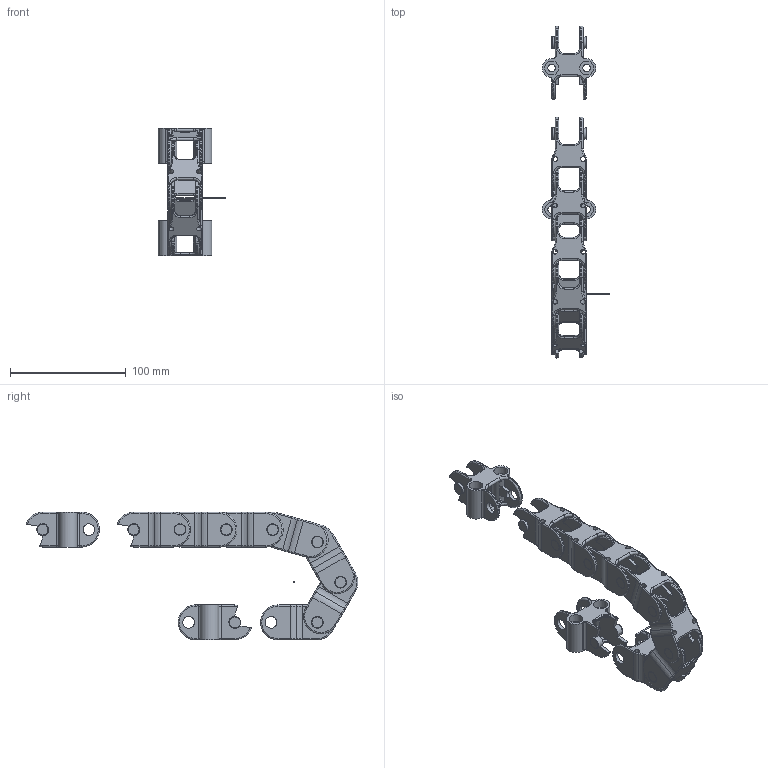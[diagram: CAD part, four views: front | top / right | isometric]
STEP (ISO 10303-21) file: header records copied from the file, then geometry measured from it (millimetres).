
FILE_DESCRIPTION((''),'2;1');
FILE_NAME('C:\Uebbing\PARAMETERKETTEN\KOLIBRI\Kol_30_030_3\KOLIBRI 30_030_3_R40.stp','2012-03-02T13:16:41',('Uebbing'),(''),'Autodesk Inventor 10','Autodesk Inventor 10','');
FILE_SCHEMA(('AUTOMOTIVE_DESIGN { 1 0 10303 214 1 1 1 1 }'));
Length unit declared in the file: millimetre
Products named in the file (4): KOLIBRI 30_030_3_PARAMETRISCH; Kol_30_030_3; Achse; Kol_30_030_3 K Anschluss
Assembly tree (10 placements, depth 2):
  KOLIBRI 30_030_3_PARAMETRISCH
    Kol_30_030_3  x7
    Achse
    Kol_30_030_3 K Anschluss  x2
Bounding box: 58.1 x 286.32 x 110 mm (x, y, z)
Volume: 122557.8 mm3; surface area: 89780.6 mm2
Topology: 10 solids, 10 shells, 1096 faces, 3003 edges, 1889 vertices
Faces by surface type: bspline 375, cylinder 286, torus 226, plane 209
Full cylindrical faces by diameter (mm): 1 x1, 6.5 x4, 9.95 x9, 10.05 x9, 12 x8
Entity records: 13745 total; most frequent: CARTESIAN_POINT 7557, ORIENTED_EDGE 1316, DIRECTION 1230, EDGE_CURVE 658, AXIS2_PLACEMENT_3D 508, VERTEX_POINT 426, CIRCLE 292, EDGE_LOOP 292
